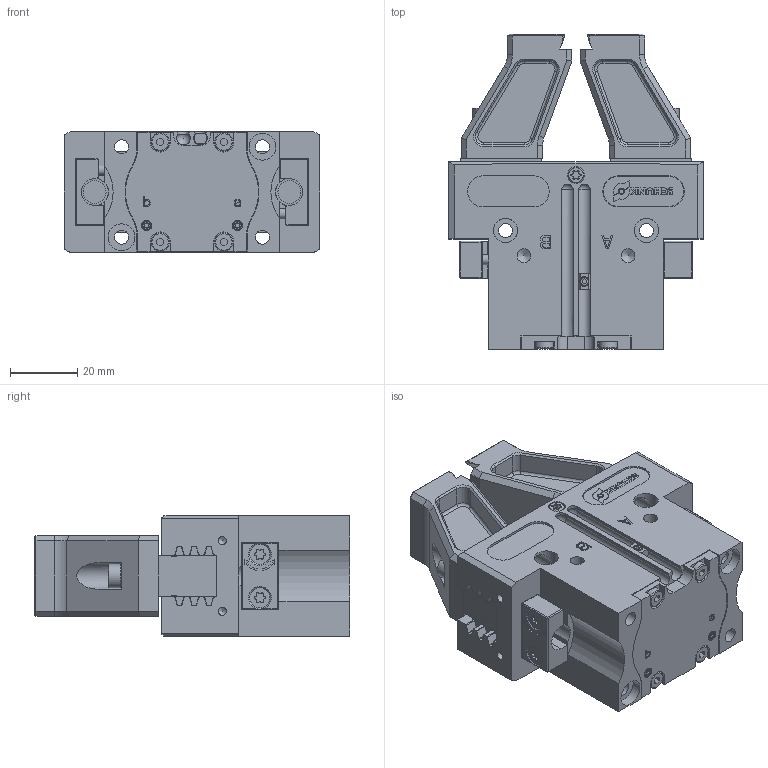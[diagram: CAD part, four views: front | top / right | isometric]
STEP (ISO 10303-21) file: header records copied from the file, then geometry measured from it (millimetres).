
FILE_DESCRIPTION (( 'STEP AP214' ), '1' );
FILE_NAME ('AG-12_WEBSITE.step', '2025-08-11T09:05:16', ( '' ), ( '' ), 'SwSTEP 2.0', 'SolidWorks 2024', '' );
FILE_SCHEMA (( 'AUTOMOTIVE_DESIGN' ));
Length unit declared in the file: inch
Products named in the file (11): SCHUNK-5524058-Grundbacke PGN-plus-P 64-2_WEBSITE; AG-12_WEBSITE; AS-52-1_WEBSITE; SCHUNK-5524061 Deckel-PGN-plus-P 64_WEBSITE; SCHUNK-9949504 limit stop for MMS-P_WEBSITE; SCHUNK-5524062 Abdeckblech-PGN-plus-P 64_WEBSITE; M4X20.SHCS_WEBSITE_91290A168; SCHUNK-9872112 Halter fuer NHS PGN-plus-P 64_WEBSITE; SCHUNK-0318499 PGN-plus-P 64-2-AS, 000_WEBSITE; SCHUNK-5524054 Gehaeuse-PGN-plus-P 64-GKS_WEBSITE; SCHUNK-9905502 Typenschild 9x24x0.3_WEBSITE
Assembly tree (16 placements, depth 3):
  AG-12_WEBSITE
    SCHUNK-0318499 PGN-plus-P 64-2-AS, 000_WEBSITE
      SCHUNK-5524054 Gehaeuse-PGN-plus-P 64-GKS_WEBSITE
      SCHUNK-5524062 Abdeckblech-PGN-plus-P 64_WEBSITE
      SCHUNK-5524061 Deckel-PGN-plus-P 64_WEBSITE
      SCHUNK-9949504 limit stop for MMS-P_WEBSITE
      SCHUNK-9905502 Typenschild 9x24x0.3_WEBSITE
      SCHUNK-9872112 Halter fuer NHS PGN-plus-P 64_WEBSITE  x2
      SCHUNK-5524058-Grundbacke PGN-plus-P 64-2_WEBSITE  x2
    AS-52-1_WEBSITE  x2
    M4X20.SHCS_WEBSITE_91290A168  x4
Bounding box: 76 x 94 x 36 mm (x, y, z)
Volume: 135532.9 mm3; surface area: 66941.4 mm2
Topology: 19 solids, 19 shells, 1921 faces, 5185 edges, 3389 vertices
Faces by surface type: plane 1105, cylinder 678, cone 108, torus 24, bspline 4, sphere 2
Full cylindrical faces by diameter (mm): 1.344 x1, 2.013 x4, 2.459 x8, 2.5 x5, 3 x6, 3.242 x4, 3.4 x4, 4 x8, 4.134 x2, 4.2 x8, 4.3 x4, 4.7 x4, 5 x2, 5.5 x4, 5.6 x4, 6 x12, 6.02 x4, 6.8 x2, 7 x6, 7.25 x8, 8 x6, 8.2 x2
Entity records: 55849 total; most frequent: CARTESIAN_POINT 7841, DIRECTION 6884, ORIENTED_EDGE 6724, EDGE_CURVE 3362, LINE 2316, VECTOR 2316, AXIS2_PLACEMENT_3D 2284, VERTEX_POINT 2283
